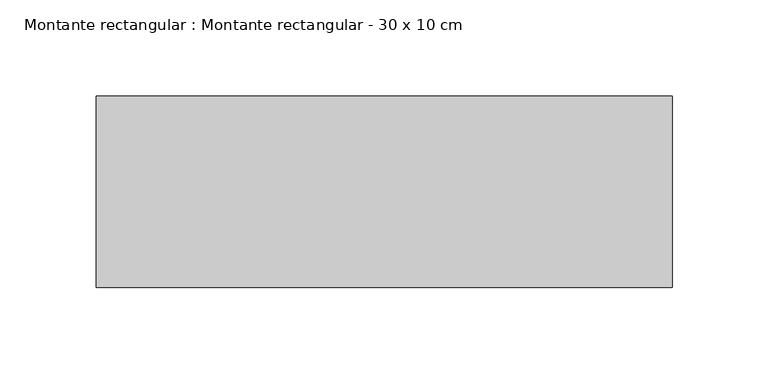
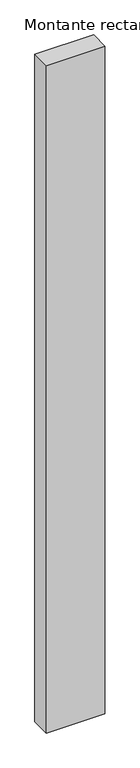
"""IFC4 building model written with IfcOpenShell, lengths in millimetres: member geometry, Montante rectangular : Montante rectangular - 30 x 10 cm."""

from ifc_helpers import new_model, si_unit, frame, origin, place, context, project, spatial, polyline, outline, extrude, source, transform, mapped, element, save


def montante_rectangular_montante_rectangular_30_x_10_cm_c682e13a(model_context):
    return source(origin(), model_context, "Body", "SweptSolid", [
        extrude(outline(polyline([(-300.0, -50.0), (-300.0, 50.0), (0.0, 50.0), (0.0, -50.0), (-300.0, -50.0)])), frame((0.0, 0.0, -3605.0), z_axis=(0.0, 0.0, 1.0), x_axis=(1.0, 0.0, 0.0)), (0.0, 0.0, 1.0), 3605.0),
    ])


if __name__ == "__main__":
    model = new_model("IFC4")
    model_context = context("Model", 3, world=origin())
    ifc_project = project(units=[si_unit("LENGTHUNIT", "METRE", prefix="MILLI")], contexts=[model_context])
    site = spatial("IfcSite", under=ifc_project)
    building = spatial("IfcBuilding", under=site)
    placement = place(None, origin())
    montante_rectangular_montante_rectangular_30_x_10_cm_shape = montante_rectangular_montante_rectangular_30_x_10_cm_c682e13a(model_context)
    element("IfcMember", 1, ObjectType="Montante rectangular : Montante rectangular - 30 x 10 cm", at=placement, inside=building, context=model_context, shape_type="MappedRepresentation", body=[
        mapped(montante_rectangular_montante_rectangular_30_x_10_cm_shape, transform((0.0, 0.0, 0.0), x_axis=(1.0, 0.0, 0.0), y_axis=(0.0, 1.0, 0.0), z_axis=(0.0, 0.0, 1.0))),
    ])
    save(model, "model.ifc")
